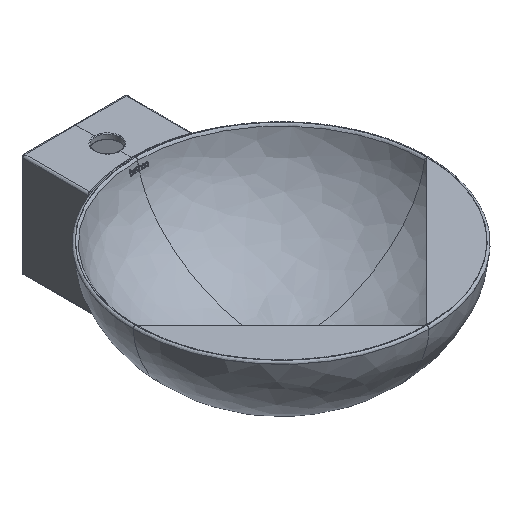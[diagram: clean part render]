
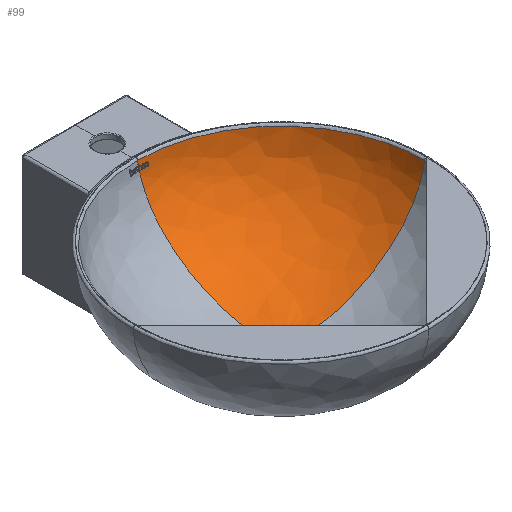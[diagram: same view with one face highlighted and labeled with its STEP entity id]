
A CAD part, isometric view. The second image highlights one B-rep face of the part: STEP entity #99.
In plain terms, the highlighted free-form (B-spline) face has degree [2, 3] with [9, 4] control points.
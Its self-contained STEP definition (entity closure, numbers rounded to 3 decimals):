
#99=ADVANCED_FACE('',(#308),#2908,.T.);
#308=FACE_OUTER_BOUND('',#517,.T.);
#517=EDGE_LOOP('',(#948,#949,#950,#951));
#948=ORIENTED_EDGE('',*,*,#1760,.T.);
#949=ORIENTED_EDGE('',*,*,#1630,.F.);
#950=ORIENTED_EDGE('',*,*,#1703,.T.);
#951=ORIENTED_EDGE('',*,*,#1670,.F.);
#1630=EDGE_CURVE('',#2519,#2517,#2077,.T.);
#1670=EDGE_CURVE('',#2518,#2520,#2106,.T.);
#1703=EDGE_CURVE('',#2519,#2520,#2131,.T.);
#1760=EDGE_CURVE('',#2518,#2517,#2171,.T.);
#2077=(
BOUNDED_CURVE()
B_SPLINE_CURVE(2,(#7582,#7583,#7584,#7585,#7586),.UNSPECIFIED.,.F.,.F.)
B_SPLINE_CURVE_WITH_KNOTS((3,2,3),(-219.73,-164.798,
-164.798),.UNSPECIFIED.)
CURVE()
GEOMETRIC_REPRESENTATION_ITEM()
RATIONAL_B_SPLINE_CURVE((1.,0.707,1.,1.,1.))
REPRESENTATION_ITEM('')
);
#2106=(
BOUNDED_CURVE()
B_SPLINE_CURVE(3,(#7706,#7707,#7708,#7709,#7710,#7711,#7712,#7713,#7714,
#7715,#7716,#7717,#7718,#7719,#7720,#7721,#7722,#7723,#7724,#7725,#7726,
#7727,#7728,#7729,#7730,#7731,#7732,#7733),.UNSPECIFIED.,.F.,.F.)
B_SPLINE_CURVE_WITH_KNOTS((4,3,3,3,3,3,3,3,3,4),(-324.92,-324.348,
-283.709,-243.07,-202.43,-161.791,-121.343,
-80.895,-40.448,0.),.UNSPECIFIED.)
CURVE()
GEOMETRIC_REPRESENTATION_ITEM()
RATIONAL_B_SPLINE_CURVE((1.,1.,1.,1.,1.,1.,
1.,1.,1.,1.,1.,1.,1.,1.,1.,
1.,1.,1.,1.,1.,1.,1.,1.,1.,1.,1.,1.,1.))
REPRESENTATION_ITEM('')
);
#2131=(
BOUNDED_CURVE()
B_SPLINE_CURVE(3,(#7910,#7911,#7912,#7913),.UNSPECIFIED.,.F.,.F.)
B_SPLINE_CURVE_WITH_KNOTS((4,4),(0.,229.323),.UNSPECIFIED.)
CURVE()
GEOMETRIC_REPRESENTATION_ITEM()
RATIONAL_B_SPLINE_CURVE((1.,1.,1.,1.))
REPRESENTATION_ITEM('')
);
#2171=(
BOUNDED_CURVE()
B_SPLINE_CURVE(3,(#8334,#8335,#8336,#8337,#8338,#8339,#8340,#8341,#8342,
#8343,#8344,#8345,#8346,#8347,#8348,#8349,#8350,#8351),.UNSPECIFIED.,.F.,
 .F.)
B_SPLINE_CURVE_WITH_KNOTS((4,3,2,3,2,2,2,4),(2.518,58.464,
87.696,116.899,145.818,174.729,203.637,
232.52),.UNSPECIFIED.)
CURVE()
GEOMETRIC_REPRESENTATION_ITEM()
RATIONAL_B_SPLINE_CURVE((1.,1.,1.,1.,1.,1.,1.,1.,1.,1.,1.,1.,1.,1.,1.,1.,
1.,1.))
REPRESENTATION_ITEM('')
);
#2517=VERTEX_POINT('',#7214);
#2518=VERTEX_POINT('',#7215);
#2519=VERTEX_POINT('',#7216);
#2520=VERTEX_POINT('',#7217);
#2908=(
BOUNDED_SURFACE()
B_SPLINE_SURFACE(2,3,((#5124,#5125,#5126,#5127),(#5128,#5129,#5130,#5131),
(#5132,#5133,#5134,#5135),(#5136,#5137,#5138,#5139),(#5140,#5141,#5142,
#5143),(#5144,#5145,#5146,#5147),(#5148,#5149,#5150,#5151),(#5152,#5153,
#5154,#5155),(#5156,#5157,#5158,#5159)),.UNSPECIFIED.,.T.,.F.,.F.)
B_SPLINE_SURFACE_WITH_KNOTS((3,2,2,2,3),(4,4),(0.,320.848,641.696,
962.544,1283.391),(0.,231.819),.UNSPECIFIED.)
GEOMETRIC_REPRESENTATION_ITEM()
RATIONAL_B_SPLINE_SURFACE(((1.,1.,1.,1.),(0.707,0.707,
0.707,0.707),(1.,1.,1.,1.),(0.707,0.707,
0.707,0.707),(1.,1.,1.,1.),(0.707,0.707,
0.707,0.707),(1.,1.,1.,1.),(0.707,0.707,
0.707,0.707),(1.,1.,1.,1.)))
REPRESENTATION_ITEM('')
SURFACE()
);
#5124=CARTESIAN_POINT('',(16519.287,1341.326,-4717.429));
#5125=CARTESIAN_POINT('',(16590.735,1341.326,-4713.955));
#5126=CARTESIAN_POINT('',(16677.921,1341.326,-4663.32));
#5127=CARTESIAN_POINT('',(16688.574,1341.326,-4584.593));
#5128=CARTESIAN_POINT('',(16519.287,1306.355,-4717.429));
#5129=CARTESIAN_POINT('',(16590.734,1234.906,-4713.955));
#5130=CARTESIAN_POINT('',(16677.921,1147.721,-4663.32));
#5131=CARTESIAN_POINT('',(16688.574,1137.068,-4584.593));
#5132=CARTESIAN_POINT('',(16484.315,1306.355,-4717.429));
#5133=CARTESIAN_POINT('',(16484.315,1234.907,-4713.955));
#5134=CARTESIAN_POINT('',(16484.316,1147.721,-4663.32));
#5135=CARTESIAN_POINT('',(16484.315,1137.068,-4584.593));
#5136=CARTESIAN_POINT('',(16449.344,1306.355,-4717.429));
#5137=CARTESIAN_POINT('',(16377.896,1234.907,-4713.955));
#5138=CARTESIAN_POINT('',(16290.71,1147.721,-4663.32));
#5139=CARTESIAN_POINT('',(16280.057,1137.068,-4584.593));
#5140=CARTESIAN_POINT('',(16449.344,1341.326,-4717.429));
#5141=CARTESIAN_POINT('',(16377.896,1341.326,-4713.955));
#5142=CARTESIAN_POINT('',(16290.71,1341.326,-4663.32));
#5143=CARTESIAN_POINT('',(16280.057,1341.326,-4584.593));
#5144=CARTESIAN_POINT('',(16449.344,1376.297,-4717.429));
#5145=CARTESIAN_POINT('',(16377.897,1447.746,-4713.955));
#5146=CARTESIAN_POINT('',(16290.71,1534.931,-4663.32));
#5147=CARTESIAN_POINT('',(16280.057,1545.584,-4584.593));
#5148=CARTESIAN_POINT('',(16484.316,1376.297,-4717.429));
#5149=CARTESIAN_POINT('',(16484.316,1447.745,-4713.955));
#5150=CARTESIAN_POINT('',(16484.315,1534.931,-4663.32));
#5151=CARTESIAN_POINT('',(16484.315,1545.584,-4584.593));
#5152=CARTESIAN_POINT('',(16519.287,1376.297,-4717.429));
#5153=CARTESIAN_POINT('',(16590.735,1447.745,-4713.955));
#5154=CARTESIAN_POINT('',(16677.921,1534.931,-4663.32));
#5155=CARTESIAN_POINT('',(16688.574,1545.584,-4584.593));
#5156=CARTESIAN_POINT('',(16519.287,1341.326,-4717.429));
#5157=CARTESIAN_POINT('',(16590.735,1341.326,-4713.955));
#5158=CARTESIAN_POINT('',(16677.921,1341.326,-4663.32));
#5159=CARTESIAN_POINT('',(16688.574,1341.326,-4584.593));
#7214=CARTESIAN_POINT('',(16484.315,1376.297,-4717.429));
#7215=CARTESIAN_POINT('',(16484.315,1545.214,-4587.126));
#7216=CARTESIAN_POINT('',(16519.287,1341.326,-4717.429));
#7217=CARTESIAN_POINT('',(16688.203,1341.326,-4587.126));
#7582=CARTESIAN_POINT('',(16519.287,1341.326,-4717.429));
#7583=CARTESIAN_POINT('',(16519.287,1376.297,-4717.429));
#7584=CARTESIAN_POINT('',(16484.316,1376.297,-4717.429));
#7585=CARTESIAN_POINT('',(16484.315,1376.297,-4717.429));
#7586=CARTESIAN_POINT('',(16484.315,1376.297,-4717.429));
#7706=CARTESIAN_POINT('',(16484.315,1545.214,-4587.126));
#7707=CARTESIAN_POINT('',(16484.503,1545.214,-4587.126));
#7708=CARTESIAN_POINT('',(16484.691,1545.214,-4587.126));
#7709=CARTESIAN_POINT('',(16484.879,1545.213,-4587.126));
#7710=CARTESIAN_POINT('',(16498.232,1545.176,-4587.126));
#7711=CARTESIAN_POINT('',(16511.58,1543.823,-4587.126));
#7712=CARTESIAN_POINT('',(16524.668,1541.181,-4587.126));
#7713=CARTESIAN_POINT('',(16537.757,1538.538,-4587.126));
#7714=CARTESIAN_POINT('',(16550.584,1534.606,-4587.126));
#7715=CARTESIAN_POINT('',(16562.905,1529.459,-4587.126));
#7716=CARTESIAN_POINT('',(16575.225,1524.312,-4587.126));
#7717=CARTESIAN_POINT('',(16587.039,1517.951,-4587.126));
#7718=CARTESIAN_POINT('',(16598.118,1510.498,-4587.126));
#7719=CARTESIAN_POINT('',(16609.196,1503.046,-4587.126));
#7720=CARTESIAN_POINT('',(16619.541,1494.501,-4587.126));
#7721=CARTESIAN_POINT('',(16628.952,1485.029,-4587.126));
#7722=CARTESIAN_POINT('',(16638.318,1475.602,-4587.126));
#7723=CARTESIAN_POINT('',(16646.76,1465.256,-4587.126));
#7724=CARTESIAN_POINT('',(16654.116,1454.188,-4587.126));
#7725=CARTESIAN_POINT('',(16661.473,1443.121,-4587.126));
#7726=CARTESIAN_POINT('',(16667.744,1431.332,-4587.126));
#7727=CARTESIAN_POINT('',(16672.809,1419.046,-4587.126));
#7728=CARTESIAN_POINT('',(16677.875,1406.76,-4587.126));
#7729=CARTESIAN_POINT('',(16681.735,1393.977,-4587.126));
#7730=CARTESIAN_POINT('',(16684.318,1380.941,-4587.126));
#7731=CARTESIAN_POINT('',(16686.9,1367.905,-4587.126));
#7732=CARTESIAN_POINT('',(16688.204,1354.615,-4587.126));
#7733=CARTESIAN_POINT('',(16688.203,1341.326,-4587.126));
#7910=CARTESIAN_POINT('',(16519.287,1341.326,-4717.429));
#7911=CARTESIAN_POINT('',(16589.965,1341.326,-4713.992));
#7912=CARTESIAN_POINT('',(16676.045,1341.326,-4664.405));
#7913=CARTESIAN_POINT('',(16688.203,1341.326,-4587.126));
#8334=CARTESIAN_POINT('',(16484.315,1545.214,-4587.126));
#8335=CARTESIAN_POINT('',(16484.316,1542.273,-4605.815));
#8336=CARTESIAN_POINT('',(16484.315,1535.01,-4622.884));
#8337=CARTESIAN_POINT('',(16484.315,1524.686,-4638.073));
#8338=CARTESIAN_POINT('',(16484.315,1519.215,-4646.123));
#8339=CARTESIAN_POINT('',(16484.315,1512.92,-4653.592));
#8340=CARTESIAN_POINT('',(16484.315,1499.138,-4667.313));
#8341=CARTESIAN_POINT('',(16484.315,1491.641,-4673.578));
#8342=CARTESIAN_POINT('',(16484.315,1483.739,-4679.231));
#8343=CARTESIAN_POINT('',(16484.315,1475.919,-4684.825));
#8344=CARTESIAN_POINT('',(16484.315,1467.657,-4689.852));
#8345=CARTESIAN_POINT('',(16484.315,1450.594,-4698.71));
#8346=CARTESIAN_POINT('',(16484.315,1441.727,-4702.575));
#8347=CARTESIAN_POINT('',(16484.315,1423.636,-4709.066));
#8348=CARTESIAN_POINT('',(16484.315,1414.322,-4711.724));
#8349=CARTESIAN_POINT('',(16484.315,1395.516,-4715.658));
#8350=CARTESIAN_POINT('',(16484.315,1385.892,-4716.962));
#8351=CARTESIAN_POINT('',(16484.315,1376.297,-4717.429));
